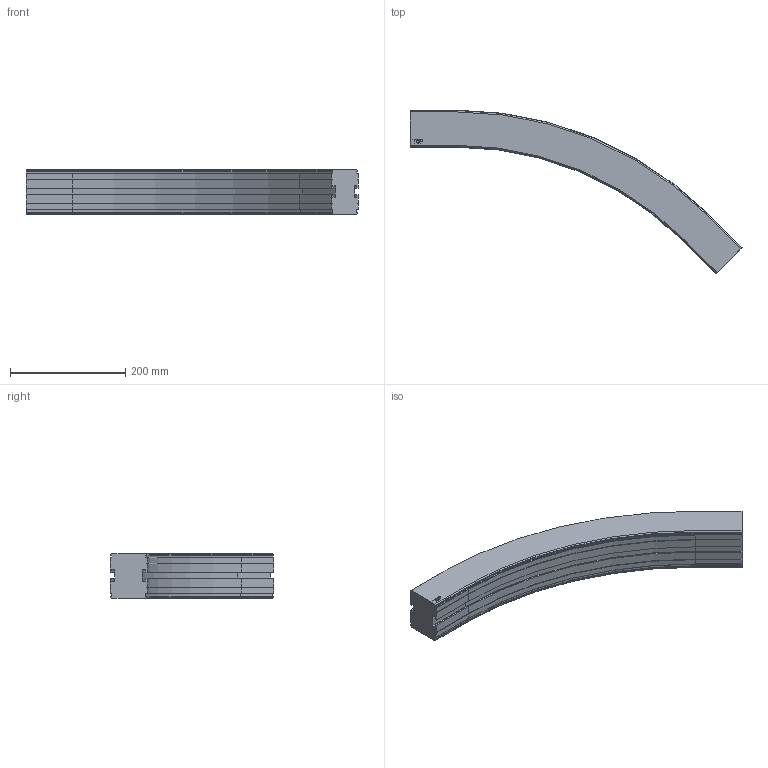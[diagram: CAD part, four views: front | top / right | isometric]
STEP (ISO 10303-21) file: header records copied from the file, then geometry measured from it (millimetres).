
FILE_DESCRIPTION((''),'2;1');
FILE_NAME('C:\Vault Klient\Projekt\Koncept konstruktion\Serie 620 Balk\620-5350.stp','2009-11-26T15:28:26',('Mathias'),(''),'Autodesk Inventor 2010','Autodesk Inventor 2010','');
FILE_SCHEMA(('AUTOMOTIVE_DESIGN { 1 0 10303 214 1 1 1 1 }'));
Length unit declared in the file: millimetre
Products named in the file (1): 620-5350
Bounding box: 575.68 x 283.71 x 78 mm (x, y, z)
Volume: 2895355.9 mm3; surface area: 233764.1 mm2
Topology: 1 solids, 1 shells, 169 faces, 446 edges, 284 vertices
Faces by surface type: plane 109, cylinder 30, bspline 14, cone 12, torus 4
Entity records: 5295 total; most frequent: CARTESIAN_POINT 1094, ORIENTED_EDGE 892, DIRECTION 802, EDGE_CURVE 446, VECTOR 346, LINE 346, VERTEX_POINT 284, AXIS2_PLACEMENT_3D 228
